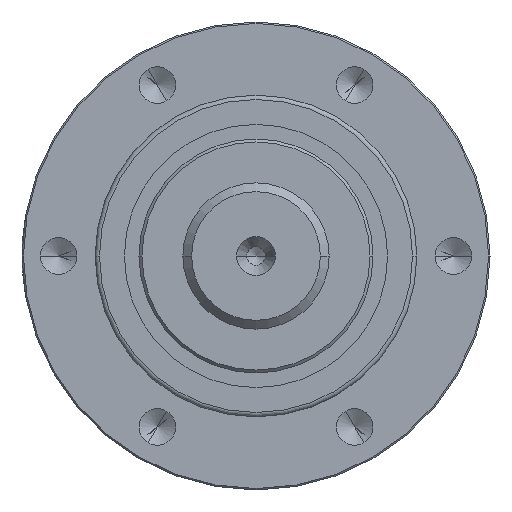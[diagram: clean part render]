
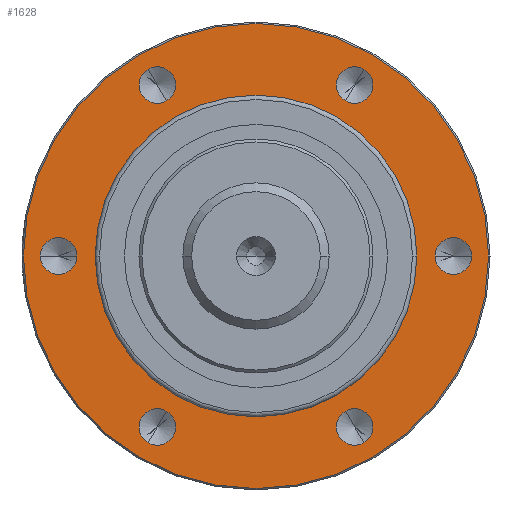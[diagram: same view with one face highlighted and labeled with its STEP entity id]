
A CAD part, left-side view. The second image highlights one B-rep face of the part: STEP entity #1628.
In plain terms, the highlighted planar face has unit normal (-1, 0, 0).
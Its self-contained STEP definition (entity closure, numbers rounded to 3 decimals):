
#322=CARTESIAN_POINT('',(0.,13.5,0.));
#323=DIRECTION('',(-1.,0.,0.));
#324=DIRECTION('',(0.,1.,0.));
#325=AXIS2_PLACEMENT_3D('',#322,#323,#324);
#327=CARTESIAN_POINT('',(0.,13.5,0.));
#328=DIRECTION('',(-1.,0.,0.));
#329=DIRECTION('',(0.,-1.,0.));
#330=AXIS2_PLACEMENT_3D('',#327,#328,#329);
#332=CARTESIAN_POINT('',(0.,6.75,11.691));
#333=DIRECTION('',(-1.,0.,0.));
#334=DIRECTION('',(0.,0.5,0.866));
#335=AXIS2_PLACEMENT_3D('',#332,#333,#334);
#337=CARTESIAN_POINT('',(0.,6.75,11.691));
#338=DIRECTION('',(-1.,0.,0.));
#339=DIRECTION('',(0.,-0.5,-0.866));
#340=AXIS2_PLACEMENT_3D('',#337,#338,#339);
#342=CARTESIAN_POINT('',(0.,-6.75,11.691));
#343=DIRECTION('',(-1.,0.,0.));
#344=DIRECTION('',(0.,-0.5,0.866));
#345=AXIS2_PLACEMENT_3D('',#342,#343,#344);
#347=CARTESIAN_POINT('',(0.,-6.75,11.691));
#348=DIRECTION('',(-1.,0.,0.));
#349=DIRECTION('',(0.,0.5,-0.866));
#350=AXIS2_PLACEMENT_3D('',#347,#348,#349);
#352=CARTESIAN_POINT('',(0.,-13.5,0.));
#353=DIRECTION('',(-1.,0.,0.));
#354=DIRECTION('',(0.,-1.,0.));
#355=AXIS2_PLACEMENT_3D('',#352,#353,#354);
#357=CARTESIAN_POINT('',(0.,-13.5,0.));
#358=DIRECTION('',(-1.,0.,0.));
#359=DIRECTION('',(0.,1.,0.));
#360=AXIS2_PLACEMENT_3D('',#357,#358,#359);
#362=CARTESIAN_POINT('',(0.,-6.75,-11.691));
#363=DIRECTION('',(-1.,0.,0.));
#364=DIRECTION('',(0.,-0.5,-0.866));
#365=AXIS2_PLACEMENT_3D('',#362,#363,#364);
#367=CARTESIAN_POINT('',(0.,-6.75,-11.691));
#368=DIRECTION('',(-1.,0.,0.));
#369=DIRECTION('',(0.,0.5,0.866));
#370=AXIS2_PLACEMENT_3D('',#367,#368,#369);
#372=CARTESIAN_POINT('',(0.,6.75,-11.691));
#373=DIRECTION('',(-1.,0.,0.));
#374=DIRECTION('',(0.,0.5,-0.866));
#375=AXIS2_PLACEMENT_3D('',#372,#373,#374);
#377=CARTESIAN_POINT('',(0.,6.75,-11.691));
#378=DIRECTION('',(-1.,0.,0.));
#379=DIRECTION('',(0.,-0.5,0.866));
#380=AXIS2_PLACEMENT_3D('',#377,#378,#379);
#382=CARTESIAN_POINT('',(0.,0.,0.));
#383=DIRECTION('',(-1.,0.,0.));
#384=DIRECTION('',(0.,1.,0.));
#385=AXIS2_PLACEMENT_3D('',#382,#383,#384);
#387=CARTESIAN_POINT('',(0.,0.,0.));
#388=DIRECTION('',(-1.,0.,0.));
#389=DIRECTION('',(0.,-1.,0.));
#390=AXIS2_PLACEMENT_3D('',#387,#388,#389);
#401=CARTESIAN_POINT('',(0.,0.,0.));
#402=DIRECTION('',(-1.,0.,0.));
#403=DIRECTION('',(0.,1.,0.));
#404=AXIS2_PLACEMENT_3D('',#401,#402,#403);
#775=CARTESIAN_POINT('',(0.,0.,0.));
#776=DIRECTION('',(1.,0.,0.));
#777=DIRECTION('',(0.,1.,0.));
#778=AXIS2_PLACEMENT_3D('',#775,#776,#777);
#1043=CARTESIAN_POINT('',(0.,11.,0.));
#1044=CARTESIAN_POINT('',(0.,-11.,0.));
#1045=VERTEX_POINT('',#1043);
#1046=VERTEX_POINT('',#1044);
#1057=CARTESIAN_POINT('',(0.,14.75,0.));
#1058=CARTESIAN_POINT('',(0.,12.25,0.));
#1059=VERTEX_POINT('',#1057);
#1060=VERTEX_POINT('',#1058);
#1067=CARTESIAN_POINT('',(0.,7.375,12.774));
#1068=CARTESIAN_POINT('',(0.,6.125,10.609));
#1069=VERTEX_POINT('',#1067);
#1070=VERTEX_POINT('',#1068);
#1077=CARTESIAN_POINT('',(0.,-7.375,12.774));
#1078=CARTESIAN_POINT('',(0.,-6.125,10.609));
#1079=VERTEX_POINT('',#1077);
#1080=VERTEX_POINT('',#1078);
#1087=CARTESIAN_POINT('',(0.,-14.75,0.));
#1088=CARTESIAN_POINT('',(0.,-12.25,0.));
#1089=VERTEX_POINT('',#1087);
#1090=VERTEX_POINT('',#1088);
#1099=CARTESIAN_POINT('',(0.,15.9,0.));
#1100=CARTESIAN_POINT('',(0.,-15.9,0.));
#1101=VERTEX_POINT('',#1099);
#1102=VERTEX_POINT('',#1100);
#1207=CARTESIAN_POINT('',(0.,-7.375,-12.774));
#1208=CARTESIAN_POINT('',(0.,-6.125,-10.609));
#1209=VERTEX_POINT('',#1207);
#1210=VERTEX_POINT('',#1208);
#1217=CARTESIAN_POINT('',(0.,7.375,-12.774));
#1218=CARTESIAN_POINT('',(0.,6.125,-10.609));
#1219=VERTEX_POINT('',#1217);
#1220=VERTEX_POINT('',#1218);
#1576=CARTESIAN_POINT('',(0.,0.,0.));
#1577=DIRECTION('',(1.,0.,0.));
#1578=DIRECTION('',(0.,-1.,0.));
#1579=AXIS2_PLACEMENT_3D('',#1576,#1577,#1578);
#1580=PLANE('',#1579);
#1582=ORIENTED_EDGE('',*,*,#1581,.F.);
#1583=ORIENTED_EDGE('',*,*,#1566,.F.);
#1584=EDGE_LOOP('',(#1582,#1583));
#1585=FACE_OUTER_BOUND('',#1584,.F.);
#1587=ORIENTED_EDGE('',*,*,#1586,.T.);
#1589=ORIENTED_EDGE('',*,*,#1588,.T.);
#1590=EDGE_LOOP('',(#1587,#1589));
#1591=FACE_BOUND('',#1590,.F.);
#1593=ORIENTED_EDGE('',*,*,#1592,.T.);
#1595=ORIENTED_EDGE('',*,*,#1594,.T.);
#1596=EDGE_LOOP('',(#1593,#1595));
#1597=FACE_BOUND('',#1596,.F.);
#1599=ORIENTED_EDGE('',*,*,#1598,.T.);
#1601=ORIENTED_EDGE('',*,*,#1600,.T.);
#1602=EDGE_LOOP('',(#1599,#1601));
#1603=FACE_BOUND('',#1602,.F.);
#1605=ORIENTED_EDGE('',*,*,#1604,.T.);
#1607=ORIENTED_EDGE('',*,*,#1606,.T.);
#1608=EDGE_LOOP('',(#1605,#1607));
#1609=FACE_BOUND('',#1608,.F.);
#1611=ORIENTED_EDGE('',*,*,#1610,.T.);
#1613=ORIENTED_EDGE('',*,*,#1612,.T.);
#1614=EDGE_LOOP('',(#1611,#1613));
#1615=FACE_BOUND('',#1614,.F.);
#1617=ORIENTED_EDGE('',*,*,#1616,.T.);
#1619=ORIENTED_EDGE('',*,*,#1618,.T.);
#1620=EDGE_LOOP('',(#1617,#1619));
#1621=FACE_BOUND('',#1620,.F.);
#1623=ORIENTED_EDGE('',*,*,#1622,.T.);
#1625=ORIENTED_EDGE('',*,*,#1624,.F.);
#1626=EDGE_LOOP('',(#1623,#1625));
#1627=FACE_BOUND('',#1626,.F.);
#1628=ADVANCED_FACE('',(#1585,#1591,#1597,#1603,#1609,#1615,#1621,#1627),#1580,
.F.);
#326=CIRCLE('',#325,1.25);
#331=CIRCLE('',#330,1.25);
#336=CIRCLE('',#335,1.25);
#341=CIRCLE('',#340,1.25);
#346=CIRCLE('',#345,1.25);
#351=CIRCLE('',#350,1.25);
#356=CIRCLE('',#355,1.25);
#361=CIRCLE('',#360,1.25);
#366=CIRCLE('',#365,1.25);
#371=CIRCLE('',#370,1.25);
#376=CIRCLE('',#375,1.25);
#381=CIRCLE('',#380,1.25);
#386=CIRCLE('',#385,15.9);
#391=CIRCLE('',#390,15.9);
#405=CIRCLE('',#404,11.);
#779=CIRCLE('',#778,11.);
#1566=EDGE_CURVE('',#1102,#1101,#391,.T.);
#1581=EDGE_CURVE('',#1101,#1102,#386,.T.);
#1586=EDGE_CURVE('',#1059,#1060,#326,.T.);
#1588=EDGE_CURVE('',#1060,#1059,#331,.T.);
#1592=EDGE_CURVE('',#1069,#1070,#336,.T.);
#1594=EDGE_CURVE('',#1070,#1069,#341,.T.);
#1598=EDGE_CURVE('',#1079,#1080,#346,.T.);
#1600=EDGE_CURVE('',#1080,#1079,#351,.T.);
#1604=EDGE_CURVE('',#1089,#1090,#356,.T.);
#1606=EDGE_CURVE('',#1090,#1089,#361,.T.);
#1610=EDGE_CURVE('',#1209,#1210,#366,.T.);
#1612=EDGE_CURVE('',#1210,#1209,#371,.T.);
#1616=EDGE_CURVE('',#1219,#1220,#376,.T.);
#1618=EDGE_CURVE('',#1220,#1219,#381,.T.);
#1622=EDGE_CURVE('',#1045,#1046,#405,.T.);
#1624=EDGE_CURVE('',#1045,#1046,#779,.T.);
